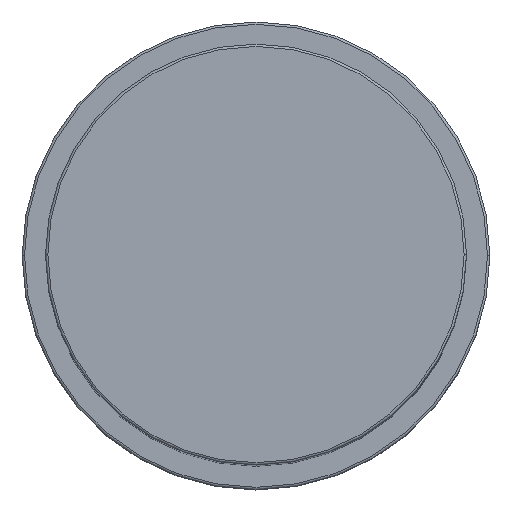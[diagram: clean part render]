
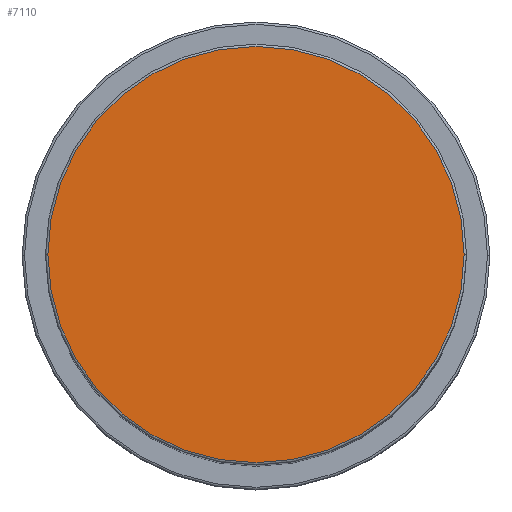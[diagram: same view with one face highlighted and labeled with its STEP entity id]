
A CAD part, top view. The second image highlights one B-rep face of the part: STEP entity #7110.
In plain terms, the highlighted planar face has unit normal (0, 0, 1).
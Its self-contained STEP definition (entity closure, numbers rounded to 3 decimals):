
#175 = AXIS2_PLACEMENT_3D ( 'NONE', #4404, #4898, #5530 ) ;
#500 = CARTESIAN_POINT ( 'NONE',  ( -44.5, 0., 174. ) ) ;
#862 = DIRECTION ( 'NONE',  ( 1., 0., 0. ) ) ;
#1230 = EDGE_LOOP ( 'NONE', ( #7046, #1615 ) ) ;
#1233 = CIRCLE ( 'NONE', #175, 44.5 ) ;
#1348 = AXIS2_PLACEMENT_3D ( 'NONE', #4268, #4188, #862 ) ;
#1454 = CARTESIAN_POINT ( 'NONE',  ( 44.5, 0., 174. ) ) ;
#1615 = ORIENTED_EDGE ( 'NONE', *, *, #6121, .T. ) ;
#3719 = VERTEX_POINT ( 'NONE', #500 ) ;
#4188 = DIRECTION ( 'NONE',  ( 0., 0., 1. ) ) ;
#4268 = CARTESIAN_POINT ( 'NONE',  ( 0., 0., 174. ) ) ;
#4329 = DIRECTION ( 'NONE',  ( 1., 0., 0. ) ) ;
#4379 = PLANE ( 'NONE',  #4570 ) ;
#4404 = CARTESIAN_POINT ( 'NONE',  ( 0., 0., 174. ) ) ;
#4568 = VERTEX_POINT ( 'NONE', #1454 ) ;
#4570 = AXIS2_PLACEMENT_3D ( 'NONE', #6612, #5527, #4329 ) ;
#4898 = DIRECTION ( 'NONE',  ( 0., 0., 1. ) ) ;
#5260 = EDGE_CURVE ( 'NONE', #4568, #3719, #6274, .T. ) ;
#5527 = DIRECTION ( 'NONE',  ( 0., 0., 1. ) ) ;
#5530 = DIRECTION ( 'NONE',  ( 1., 0., 0. ) ) ;
#6121 = EDGE_CURVE ( 'NONE', #3719, #4568, #1233, .T. ) ;
#6274 = CIRCLE ( 'NONE', #1348, 44.5 ) ;
#6612 = CARTESIAN_POINT ( 'NONE',  ( 0., 0., 174. ) ) ;
#6789 = FACE_OUTER_BOUND ( 'NONE', #1230, .T. ) ;
#7046 = ORIENTED_EDGE ( 'NONE', *, *, #5260, .T. ) ;
#7110 = ADVANCED_FACE ( 'NONE', ( #6789 ), #4379, .T. ) ;
